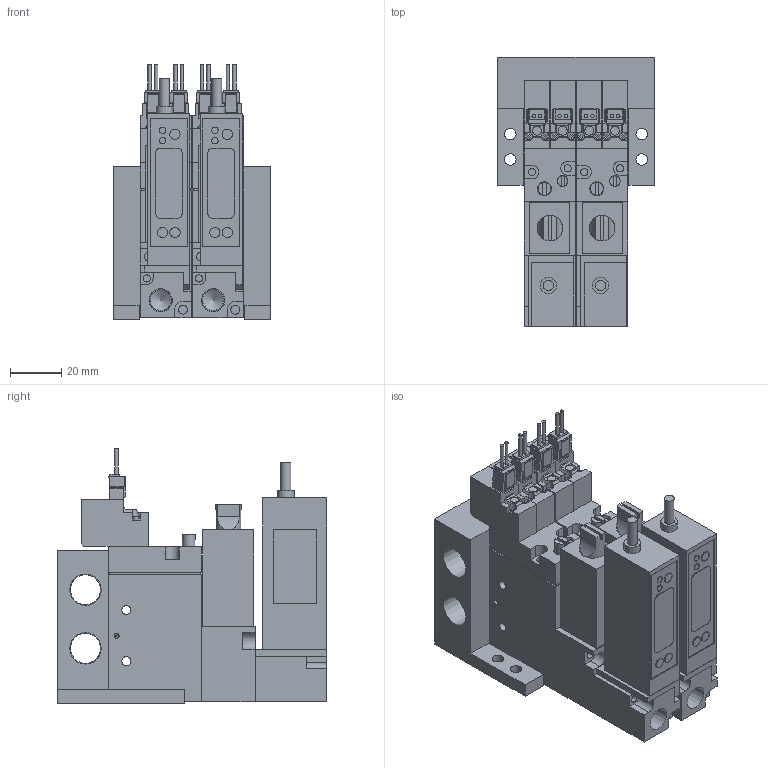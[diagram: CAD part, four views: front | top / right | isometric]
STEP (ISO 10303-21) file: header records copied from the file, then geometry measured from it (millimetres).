
FILE_DESCRIPTION(('STEP AP203'),'1');
FILE_NAME('BMPV32M2NV(R)G25BL202.stp','2025-06-17T00:55:08',(' '),(' '),'Spatial InterOp 3D',' ',' ');
FILE_SCHEMA(('CONFIG_CONTROL_DESIGN'));
Length unit declared in the file: millimetre
Products named in the file (28): BMPV32M2NV(R)G25BL202; Pressure sensor VGL; ___-3(Rc); Filter Assy; __; _____; ___ ___; MB BRACKET; BMPV32 MB02; ___; upper plate-A; ______; ____; VACUUM VALVE FUNCTION MPV42-A
Assembly tree (27 placements, depth 2):
  BMPV32M2NV(R)G25BL202
    Pressure sensor VGL
    ___-3(Rc)
    Filter Assy
    __
    _____
    ___ ___
    MB BRACKET
    MB BRACKET
    BMPV32 MB02
    Pressure sensor VGL
    ___-3(Rc)
    Filter Assy
    __
    _____
    ___ ___
    ___
    upper plate-A
    ______
    ____
    VACUUM VALVE FUNCTION MPV42-A
    VACUUM VALVE FUNCTION MPV42-A
    ___
    upper plate-A
    ______
    ____
    VACUUM VALVE FUNCTION MPV42-A
    VACUUM VALVE FUNCTION MPV42-A
Bounding box: 61.5 x 105.5 x 99.75 mm (x, y, z)
Volume: 278312.2 mm3; surface area: 92643.7 mm2
Topology: 27 solids, 27 shells, 795 faces, 2050 edges, 1366 vertices
Faces by surface type: plane 623, cylinder 150, cone 22
Full cylindrical faces by diameter (mm): 1.4 x8, 1.8 x4, 2 x4, 2.5 x12, 2.8 x8, 3 x8, 3.5 x24, 4 x10, 4.2 x2, 4.5 x4, 5 x2, 5.5 x2, 6.5 x8, 8.2 x2, 8.759 x2, 11.776 x2
Entity records: 24668 total; most frequent: CARTESIAN_POINT 4169, DIRECTION 3884, ORIENTED_EDGE 3740, EDGE_CURVE 1870, LINE 1486, VECTOR 1486, VERTEX_POINT 1328, AXIS2_PLACEMENT_3D 1199
